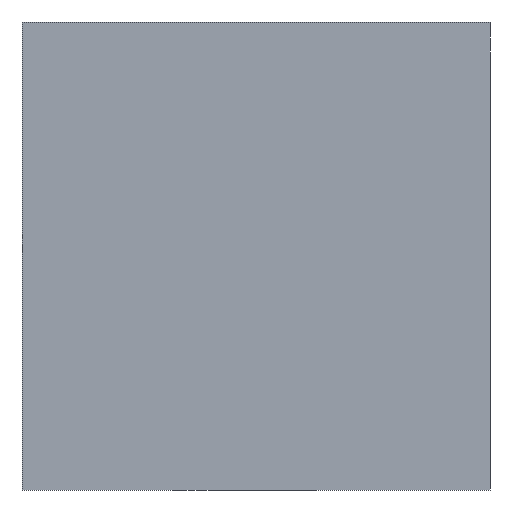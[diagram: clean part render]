
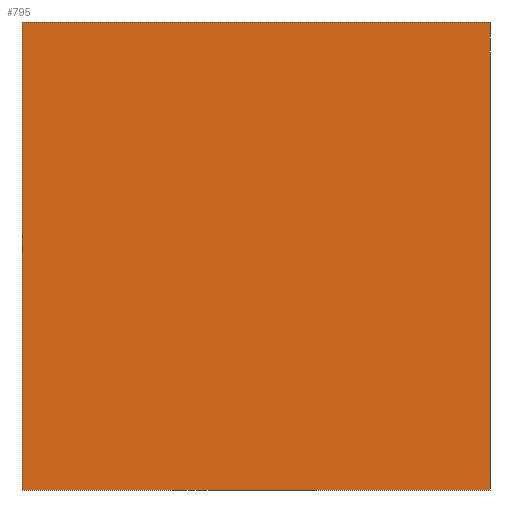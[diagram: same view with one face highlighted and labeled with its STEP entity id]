
A CAD part, front view. The second image highlights one B-rep face of the part: STEP entity #795.
In plain terms, the highlighted planar face has unit normal (0, -1, 0).
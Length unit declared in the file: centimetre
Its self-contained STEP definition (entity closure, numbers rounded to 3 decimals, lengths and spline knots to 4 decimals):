
#29 = ORIENTED_EDGE ( 'NONE', *, *, #775, .T. ) ;
#33 = CARTESIAN_POINT ( 'NONE',  ( 0., 0., 1000. ) ) ;
#75 = LINE ( 'NONE', #223, #895 ) ;
#82 = AXIS2_PLACEMENT_3D ( 'NONE', #33, #774, #942 ) ;
#100 = ORIENTED_EDGE ( 'NONE', *, *, #608, .F. ) ;
#223 = CARTESIAN_POINT ( 'NONE',  ( 0., 0., 1000. ) ) ;
#243 = DIRECTION ( 'NONE',  ( 1., 0., 0. ) ) ;
#249 = VECTOR ( 'NONE', #243, 100. ) ;
#309 = CARTESIAN_POINT ( 'NONE',  ( 0., 0., 0. ) ) ;
#314 = LINE ( 'NONE', #629, #513 ) ;
#399 = CARTESIAN_POINT ( 'NONE',  ( 0., 0., 0. ) ) ;
#402 = VERTEX_POINT ( 'NONE', #893 ) ;
#417 = ORIENTED_EDGE ( 'NONE', *, *, #781, .T. ) ;
#466 = CARTESIAN_POINT ( 'NONE',  ( 1000., 0., 1000. ) ) ;
#470 = LINE ( 'NONE', #399, #249 ) ;
#471 = FACE_OUTER_BOUND ( 'NONE', #501, .T. ) ;
#501 = EDGE_LOOP ( 'NONE', ( #29, #507, #100, #417 ) ) ;
#507 = ORIENTED_EDGE ( 'NONE', *, *, #857, .F. ) ;
#513 = VECTOR ( 'NONE', #778, 100. ) ;
#608 = EDGE_CURVE ( 'NONE', #402, #674, #75, .T. ) ;
#629 = CARTESIAN_POINT ( 'NONE',  ( 0., 0., 1000. ) ) ;
#674 = VERTEX_POINT ( 'NONE', #466 ) ;
#678 = DIRECTION ( 'NONE',  ( 1., 0., 0. ) ) ;
#708 = LINE ( 'NONE', #869, #777 ) ;
#738 = VERTEX_POINT ( 'NONE', #309 ) ;
#774 = DIRECTION ( 'NONE',  ( 0., 1., 0. ) ) ;
#775 = EDGE_CURVE ( 'NONE', #738, #904, #470, .T. ) ;
#777 = VECTOR ( 'NONE', #938, 100. ) ;
#778 = DIRECTION ( 'NONE',  ( 0., 0., -1. ) ) ;
#779 = CARTESIAN_POINT ( 'NONE',  ( 1000., 0., 0. ) ) ;
#781 = EDGE_CURVE ( 'NONE', #402, #738, #314, .T. ) ;
#787 = PLANE ( 'NONE',  #82 ) ;
#795 = ADVANCED_FACE ( 'NONE', ( #471 ), #787, .F. ) ;
#857 = EDGE_CURVE ( 'NONE', #674, #904, #708, .T. ) ;
#869 = CARTESIAN_POINT ( 'NONE',  ( 1000., 0., 1000. ) ) ;
#893 = CARTESIAN_POINT ( 'NONE',  ( 0., 0., 1000. ) ) ;
#895 = VECTOR ( 'NONE', #678, 100. ) ;
#904 = VERTEX_POINT ( 'NONE', #779 ) ;
#938 = DIRECTION ( 'NONE',  ( 0., 0., -1. ) ) ;
#942 = DIRECTION ( 'NONE',  ( 0., 0., 1. ) ) ;
